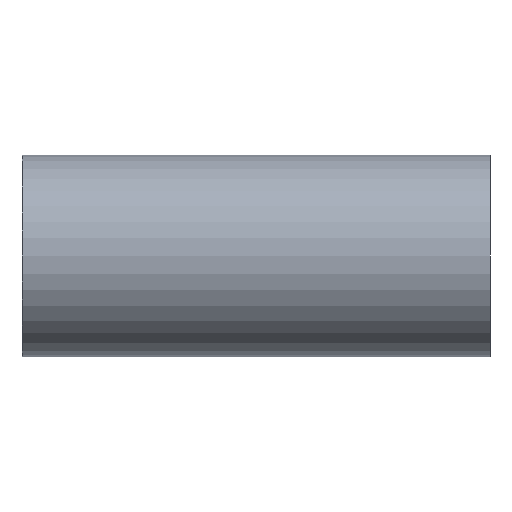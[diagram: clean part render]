
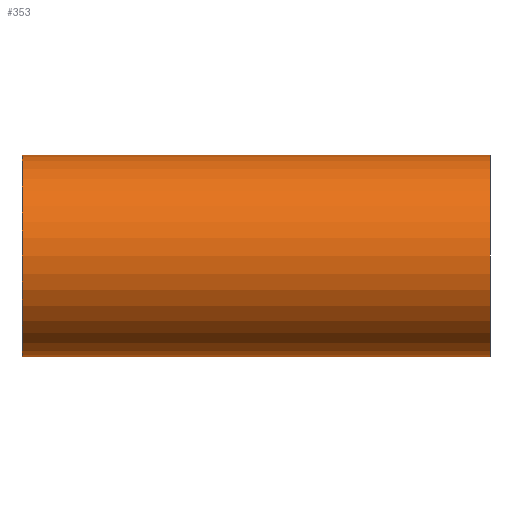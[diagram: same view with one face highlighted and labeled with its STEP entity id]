
A CAD part, front view. The second image highlights one B-rep face of the part: STEP entity #353.
In plain terms, the highlighted cylindrical face has radius 38.1 mm (diameter 76.2 mm), a partial arc.
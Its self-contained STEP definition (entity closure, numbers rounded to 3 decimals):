
#3 = LINE ( 'NONE', #261, #246 ) ;
#40 = VERTEX_POINT ( 'NONE', #527 ) ;
#133 = EDGE_CURVE ( 'NONE', #280, #390, #165, .T. ) ;
#153 = VERTEX_POINT ( 'NONE', #546 ) ;
#165 = LINE ( 'NONE', #320, #186 ) ;
#179 = EDGE_CURVE ( 'NONE', #153, #390, #223, .T. ) ;
#186 = VECTOR ( 'NONE', #310, 1000. ) ;
#191 = ORIENTED_EDGE ( 'NONE', *, *, #133, .F. ) ;
#192 = EDGE_LOOP ( 'NONE', ( #191, #376, #308, #505 ) ) ;
#216 = DIRECTION ( 'NONE',  ( 0., 0., 1. ) ) ;
#219 = DIRECTION ( 'NONE',  ( -1., 0., 0. ) ) ;
#221 = CARTESIAN_POINT ( 'NONE',  ( 88.4, 0., 0. ) ) ;
#223 = CIRCLE ( 'NONE', #391, 38.1 ) ;
#246 = VECTOR ( 'NONE', #262, 1000. ) ;
#260 = CYLINDRICAL_SURFACE ( 'NONE', #408, 38.1 ) ;
#261 = CARTESIAN_POINT ( 'NONE',  ( 196.163, 0., 38.1 ) ) ;
#262 = DIRECTION ( 'NONE',  ( -1., 0., 0. ) ) ;
#280 = VERTEX_POINT ( 'NONE', #535 ) ;
#291 = DIRECTION ( 'NONE',  ( 0., 0., 1. ) ) ;
#295 = CARTESIAN_POINT ( 'NONE',  ( -88.4, 0., -38.1 ) ) ;
#306 = DIRECTION ( 'NONE',  ( -1., 0., 0. ) ) ;
#308 = ORIENTED_EDGE ( 'NONE', *, *, #446, .T. ) ;
#310 = DIRECTION ( 'NONE',  ( -1., 0., 0. ) ) ;
#320 = CARTESIAN_POINT ( 'NONE',  ( 196.163, 0., -38.1 ) ) ;
#321 = AXIS2_PLACEMENT_3D ( 'NONE', #221, #219, #216 ) ;
#353 = ADVANCED_FACE ( 'NONE', ( #355 ), #260, .T. ) ;
#355 = FACE_OUTER_BOUND ( 'NONE', #192, .T. ) ;
#376 = ORIENTED_EDGE ( 'NONE', *, *, #500, .T. ) ;
#390 = VERTEX_POINT ( 'NONE', #295 ) ;
#391 = AXIS2_PLACEMENT_3D ( 'NONE', #424, #423, #484 ) ;
#408 = AXIS2_PLACEMENT_3D ( 'NONE', #537, #306, #291 ) ;
#423 = DIRECTION ( 'NONE',  ( 1., 0., 0. ) ) ;
#424 = CARTESIAN_POINT ( 'NONE',  ( -88.4, 0., 0. ) ) ;
#446 = EDGE_CURVE ( 'NONE', #40, #153, #3, .T. ) ;
#478 = CIRCLE ( 'NONE', #321, 38.1 ) ;
#484 = DIRECTION ( 'NONE',  ( 0., 0., 1. ) ) ;
#500 = EDGE_CURVE ( 'NONE', #280, #40, #478, .T. ) ;
#505 = ORIENTED_EDGE ( 'NONE', *, *, #179, .T. ) ;
#527 = CARTESIAN_POINT ( 'NONE',  ( 88.4, 0., 38.1 ) ) ;
#535 = CARTESIAN_POINT ( 'NONE',  ( 88.4, 0., -38.1 ) ) ;
#537 = CARTESIAN_POINT ( 'NONE',  ( 196.163, 0., 0. ) ) ;
#546 = CARTESIAN_POINT ( 'NONE',  ( -88.4, 0., 38.1 ) ) ;
